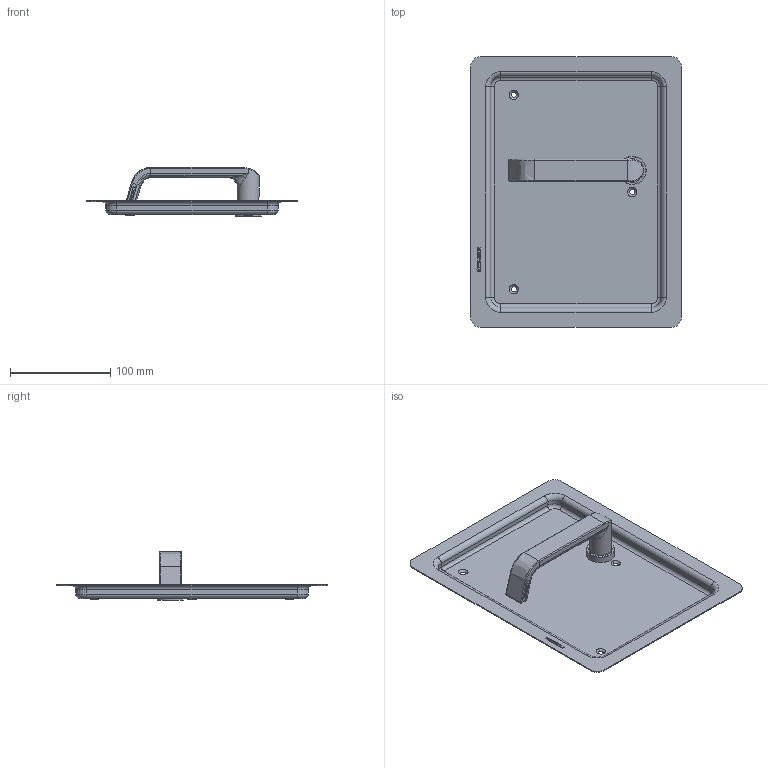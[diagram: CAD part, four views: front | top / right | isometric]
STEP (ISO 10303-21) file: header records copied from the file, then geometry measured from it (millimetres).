
FILE_DESCRIPTION(/* description */ (''),/* implementation_level */ '2;1');
FILE_NAME(/* name */ 'C:\ADSK_DMS_WS\Designs\Vorschläge\Loc Schalen\Muschel Serie 6\S6.13.D2Links\Heusser-Muschel S6.13.D2.0L.stp',/* time_stamp */ '2020-10-15T13:35:34+02:00',/* author */ ('gm'),/* organization */ (''),/* preprocessor_version */ 'ST-DEVELOPER v16.5',/* originating_system */ 'Autodesk Inventor 2017',/* authorisation */ '');
FILE_SCHEMA (('AUTOMOTIVE_DESIGN { 1 0 10303 214 3 1 1 }'));
Length unit declared in the file: millimetre
Products named in the file (1): S6.13.D1.0L
Bounding box: 210 x 270 x 49 mm (x, y, z)
Volume: 107764 mm3; surface area: 143241.3 mm2
Topology: 1 solids, 2 shells, 607 faces, 1593 edges, 1031 vertices
Faces by surface type: plane 294, bspline 208, cylinder 68, torus 21, cone 16
Full cylindrical faces by diameter (mm): 1.7 x2, 6 x1, 14.2 x1, 16 x3, 18 x1, 19 x1, 19.1 x1, 22 x1, 23 x1, 23.2 x1, 24 x1, 25 x1, 26 x1, 28 x1
Entity records: 20767 total; most frequent: CARTESIAN_POINT 6353, ORIENTED_EDGE 3098, DIRECTION 2309, EDGE_CURVE 1549, VERTEX_POINT 1024, LINE 953, VECTOR 953, EDGE_LOOP 703
